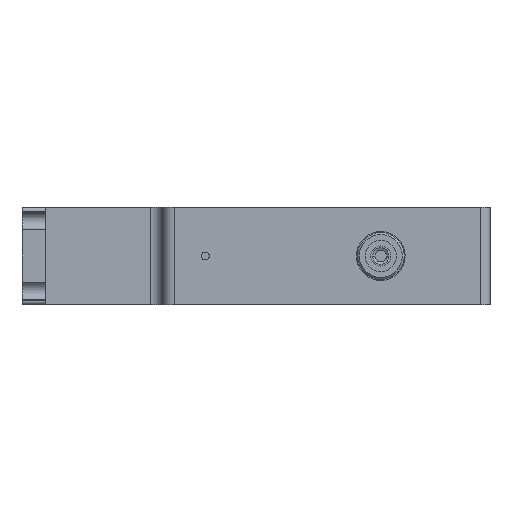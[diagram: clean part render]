
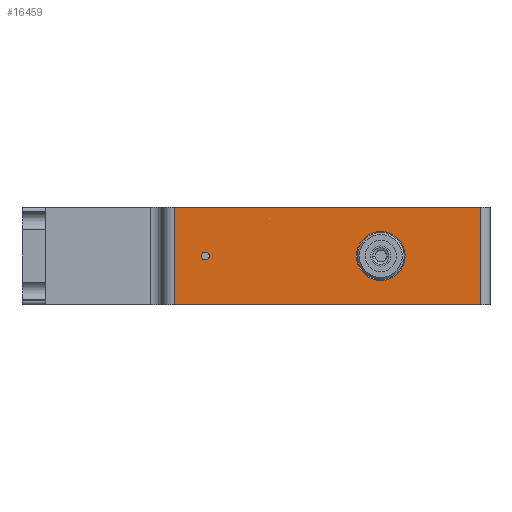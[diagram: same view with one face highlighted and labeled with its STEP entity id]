
A CAD part, front view. The second image highlights one B-rep face of the part: STEP entity #16459.
In plain terms, the highlighted planar face has unit normal (0, -1, 0).
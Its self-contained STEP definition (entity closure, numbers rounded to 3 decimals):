
#12283=DIRECTION('',(-1.,0.,0.));
#12284=VECTOR('',#12283,78.5);
#12285=CARTESIAN_POINT('',(57.5,-106.,-12.5));
#12286=LINE('',#12285,#12284);
#13039=DIRECTION('',(0.,0.,1.));
#13040=VECTOR('',#13039,25.);
#13041=CARTESIAN_POINT('',(-21.,-106.,-12.5));
#13042=LINE('',#13041,#13040);
#13043=DIRECTION('',(-1.,0.,0.));
#13044=VECTOR('',#13043,78.5);
#13045=CARTESIAN_POINT('',(57.5,-106.,12.5));
#13046=LINE('',#13045,#13044);
#13047=CARTESIAN_POINT('',(32.,-106.,0.));
#13048=DIRECTION('',(0.,1.,0.));
#13049=DIRECTION('',(0.,0.,1.));
#13050=AXIS2_PLACEMENT_3D('',#13047,#13048,#13049);
#13052=CARTESIAN_POINT('',(32.,-106.,0.));
#13053=DIRECTION('',(0.,1.,0.));
#13054=DIRECTION('',(0.,0.,-1.));
#13055=AXIS2_PLACEMENT_3D('',#13052,#13053,#13054);
#13057=CARTESIAN_POINT('',(-13.,-106.,0.));
#13058=DIRECTION('',(0.,1.,0.));
#13059=DIRECTION('',(0.,0.,1.));
#13060=AXIS2_PLACEMENT_3D('',#13057,#13058,#13059);
#13062=CARTESIAN_POINT('',(-13.,-106.,0.));
#13063=DIRECTION('',(0.,1.,0.));
#13064=DIRECTION('',(0.,0.,-1.));
#13065=AXIS2_PLACEMENT_3D('',#13062,#13063,#13064);
#13071=DIRECTION('',(0.,0.,-1.));
#13072=VECTOR('',#13071,25.);
#13073=CARTESIAN_POINT('',(57.5,-106.,12.5));
#13074=LINE('',#13073,#13072);
#14997=CARTESIAN_POINT('',(-21.,-106.,12.5));
#14999=VERTEX_POINT('',#14997);
#15058=CARTESIAN_POINT('',(57.5,-106.,12.5));
#15060=VERTEX_POINT('',#15058);
#15066=CARTESIAN_POINT('',(57.5,-106.,-12.5));
#15067=VERTEX_POINT('',#15066);
#15116=CARTESIAN_POINT('',(-13.,-106.,-1.025));
#15117=CARTESIAN_POINT('',(-13.,-106.,1.025));
#15118=VERTEX_POINT('',#15116);
#15119=VERTEX_POINT('',#15117);
#15206=CARTESIAN_POINT('',(32.,-106.,-6.25));
#15207=CARTESIAN_POINT('',(32.,-106.,6.25));
#15208=VERTEX_POINT('',#15206);
#15209=VERTEX_POINT('',#15207);
#15229=CARTESIAN_POINT('',(-21.,-106.,-12.5));
#15230=VERTEX_POINT('',#15229);
#16435=CARTESIAN_POINT('',(-60.,-106.,12.5));
#16436=DIRECTION('',(0.,1.,0.));
#16437=DIRECTION('',(0.,0.,1.));
#16438=AXIS2_PLACEMENT_3D('',#16435,#16436,#16437);
#16439=PLANE('',#16438);
#16440=ORIENTED_EDGE('',*,*,#15720,.T.);
#16441=ORIENTED_EDGE('',*,*,#16430,.T.);
#16442=ORIENTED_EDGE('',*,*,#16242,.F.);
#16444=ORIENTED_EDGE('',*,*,#16443,.T.);
#16445=EDGE_LOOP('',(#16440,#16441,#16442,#16444));
#16446=FACE_OUTER_BOUND('',#16445,.F.);
#16448=ORIENTED_EDGE('',*,*,#16447,.F.);
#16450=ORIENTED_EDGE('',*,*,#16449,.F.);
#16451=EDGE_LOOP('',(#16448,#16450));
#16452=FACE_BOUND('',#16451,.F.);
#16454=ORIENTED_EDGE('',*,*,#16453,.F.);
#16456=ORIENTED_EDGE('',*,*,#16455,.F.);
#16457=EDGE_LOOP('',(#16454,#16456));
#16458=FACE_BOUND('',#16457,.F.);
#13051=CIRCLE('',#13050,6.25);
#13056=CIRCLE('',#13055,6.25);
#13061=CIRCLE('',#13060,1.025);
#13066=CIRCLE('',#13065,1.025);
#15720=EDGE_CURVE('',#15067,#15230,#12286,.T.);
#16242=EDGE_CURVE('',#15060,#14999,#13046,.T.);
#16430=EDGE_CURVE('',#15230,#14999,#13042,.T.);
#16443=EDGE_CURVE('',#15060,#15067,#13074,.T.);
#16447=EDGE_CURVE('',#15209,#15208,#13051,.T.);
#16449=EDGE_CURVE('',#15208,#15209,#13056,.T.);
#16453=EDGE_CURVE('',#15119,#15118,#13061,.T.);
#16455=EDGE_CURVE('',#15118,#15119,#13066,.T.);
#16459=ADVANCED_FACE('',(#16446,#16452,#16458),#16439,.F.);
